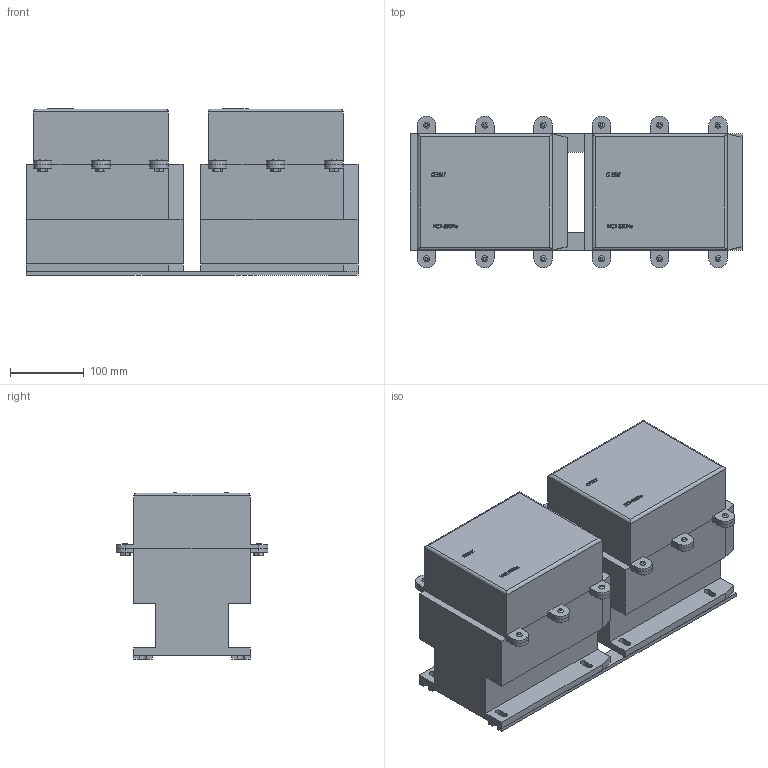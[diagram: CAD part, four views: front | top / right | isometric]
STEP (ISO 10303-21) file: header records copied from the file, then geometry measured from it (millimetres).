
FILE_DESCRIPTION(/* description */ (''),/* implementation_level */ '2;1');
FILE_NAME(/* name */ 'D:\CHINT2\NC2-N\NC2-330Ns 230В 50Гц (горизонтальная установка).stp',/* time_stamp */ '2017-11-12T21:09:59+03:00',/* author */ ('RSagdiev'),/* organization */ (''),/* preprocessor_version */ 'ST-DEVELOPER v16.5',/* originating_system */ 'Autodesk Inventor 2017',/* authorisation */ '');
FILE_SCHEMA (('AUTOMOTIVE_DESIGN { 1 0 10303 214 3 1 1 }'));
Length unit declared in the file: millimetre
Products named in the file (1): NC2-330Ns 230В 50Гц (\X2\0433043E044004380437
043E043D04420430043B044C043D0430044F\X0\ \X2\0443044104420430043D043E0432
043A0430\X0\)
Bounding box: 450 x 206 x 225.1 mm (x, y, z)
Volume: 12709396.6 mm3; surface area: 691809 mm2
Topology: 30 solids, 30 shells, 786 faces, 2100 edges, 1404 vertices
Faces by surface type: plane 502, bspline 232, cylinder 52
Entity records: 26444 total; most frequent: CARTESIAN_POINT 8145, ORIENTED_EDGE 4200, DIRECTION 2902, EDGE_CURVE 2100, LINE 1504, VECTOR 1504, VERTEX_POINT 1404, EDGE_LOOP 832
